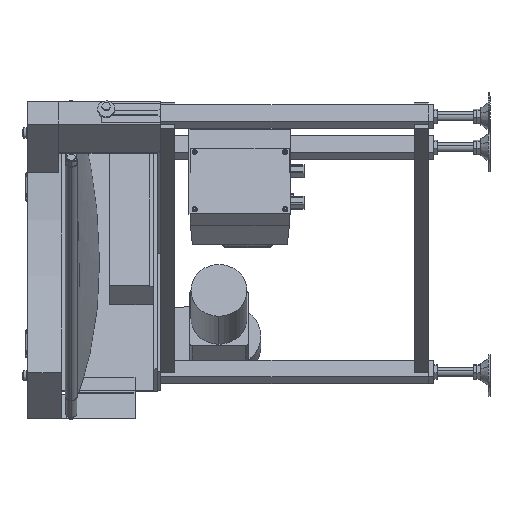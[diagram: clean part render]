
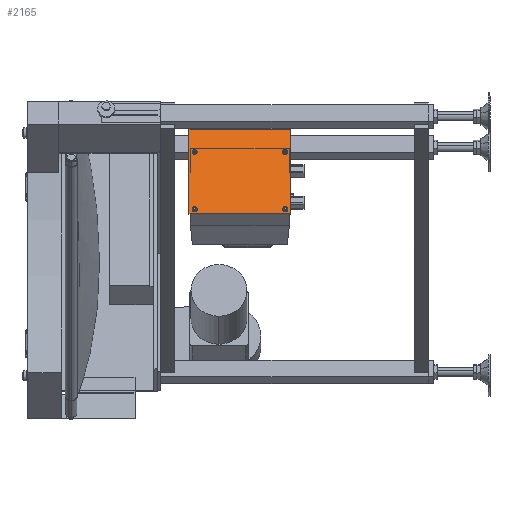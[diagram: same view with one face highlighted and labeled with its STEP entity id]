
A CAD part, left-side view. The second image highlights one B-rep face of the part: STEP entity #2165.
In plain terms, the highlighted planar face has unit normal (-0.924, 0, 0.383).
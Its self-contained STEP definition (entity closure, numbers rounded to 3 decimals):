
#209 = DIRECTION ( 'NONE',  ( 0.924, 0., -0.383 ) ) ;
#316 = AXIS2_PLACEMENT_3D ( 'NONE', #7514, #13319, #16289 ) ;
#565 = DIRECTION ( 'NONE',  ( 0., 1., 0. ) ) ;
#1039 = FACE_BOUND ( 'NONE', #23171, .T. ) ;
#1535 = AXIS2_PLACEMENT_3D ( 'NONE', #17725, #5831, #20741 ) ;
#1557 = ORIENTED_EDGE ( 'NONE', *, *, #20396, .F. ) ;
#1572 = CIRCLE ( 'NONE', #316, 4.5 ) ;
#2165 = ADVANCED_FACE ( 'NONE', ( #34431, #8570, #1039, #32107, #26400 ), #16156, .T. ) ;
#2605 = DIRECTION ( 'NONE',  ( 0.924, 0., -0.383 ) ) ;
#2780 = CARTESIAN_POINT ( 'NONE',  ( 615.953, -227.5, -86.283 ) ) ;
#3232 = EDGE_CURVE ( 'NONE', #38733, #4891, #12299, .T. ) ;
#4307 = AXIS2_PLACEMENT_3D ( 'NONE', #12824, #21541, #27885 ) ;
#4359 = EDGE_CURVE ( 'NONE', #24558, #37112, #31575, .T. ) ;
#4802 = EDGE_CURVE ( 'NONE', #4891, #38733, #14595, .T. ) ;
#4851 = VERTEX_POINT ( 'NONE', #2780 ) ;
#4854 = ORIENTED_EDGE ( 'NONE', *, *, #8979, .T. ) ;
#4891 = VERTEX_POINT ( 'NONE', #26696 ) ;
#5525 = ORIENTED_EDGE ( 'NONE', *, *, #11658, .T. ) ;
#5831 = DIRECTION ( 'NONE',  ( 0.924, 0., -0.383 ) ) ;
#6281 = DIRECTION ( 'NONE',  ( 0.924, 0., -0.383 ) ) ;
#6621 = AXIS2_PLACEMENT_3D ( 'NONE', #8787, #6281, #17909 ) ;
#6915 = VECTOR ( 'NONE', #38872, 1000. ) ;
#7361 = LINE ( 'NONE', #35878, #6915 ) ;
#7514 = CARTESIAN_POINT ( 'NONE',  ( 572.135, -387.5, -192.067 ) ) ;
#8062 = AXIS2_PLACEMENT_3D ( 'NONE', #13308, #16278, #19160 ) ;
#8167 = CARTESIAN_POINT ( 'NONE',  ( 569.265, -217.5, -198.996 ) ) ;
#8506 = CARTESIAN_POINT ( 'NONE',  ( 632.408, -397.5, -46.556 ) ) ;
#8570 = FACE_BOUND ( 'NONE', #13920, .T. ) ;
#8787 = CARTESIAN_POINT ( 'NONE',  ( 614.231, -387.5, -90.44 ) ) ;
#8979 = EDGE_CURVE ( 'NONE', #16865, #4851, #21290, .T. ) ;
#9019 = CARTESIAN_POINT ( 'NONE',  ( 614.231, -387.5, -90.44 ) ) ;
#10345 = VECTOR ( 'NONE', #24306, 1000. ) ;
#10714 = ORIENTED_EDGE ( 'NONE', *, *, #4802, .T. ) ;
#11371 = ORIENTED_EDGE ( 'NONE', *, *, #22338, .T. ) ;
#11658 = EDGE_CURVE ( 'NONE', #17021, #35065, #19707, .T. ) ;
#12013 = ORIENTED_EDGE ( 'NONE', *, *, #3232, .T. ) ;
#12237 = CARTESIAN_POINT ( 'NONE',  ( 614.231, -227.5, -90.44 ) ) ;
#12299 = CIRCLE ( 'NONE', #34758, 4.5 ) ;
#12628 = ORIENTED_EDGE ( 'NONE', *, *, #16559, .T. ) ;
#12824 = CARTESIAN_POINT ( 'NONE',  ( 572.135, -387.5, -192.067 ) ) ;
#13127 = ORIENTED_EDGE ( 'NONE', *, *, #16973, .T. ) ;
#13308 = CARTESIAN_POINT ( 'NONE',  ( 569.265, -397.5, -198.996 ) ) ;
#13319 = DIRECTION ( 'NONE',  ( 0.924, 0., -0.383 ) ) ;
#13859 = CARTESIAN_POINT ( 'NONE',  ( 632.408, -217.5, -46.556 ) ) ;
#13920 = EDGE_LOOP ( 'NONE', ( #24948, #25897 ) ) ;
#14180 = AXIS2_PLACEMENT_3D ( 'NONE', #9019, #30278, #32813 ) ;
#14422 = VERTEX_POINT ( 'NONE', #20940 ) ;
#14463 = DIRECTION ( 'NONE',  ( 0.383, 0., 0.924 ) ) ;
#14595 = CIRCLE ( 'NONE', #26733, 4.5 ) ;
#15042 = LINE ( 'NONE', #21438, #23450 ) ;
#15329 = EDGE_CURVE ( 'NONE', #37112, #24558, #26557, .T. ) ;
#16156 = PLANE ( 'NONE',  #8062 ) ;
#16278 = DIRECTION ( 'NONE',  ( -0.924, 0., 0.383 ) ) ;
#16289 = DIRECTION ( 'NONE',  ( -0.383, 0., -0.924 ) ) ;
#16448 = LINE ( 'NONE', #8167, #36206 ) ;
#16559 = EDGE_CURVE ( 'NONE', #16974, #14422, #1572, .T. ) ;
#16865 = VERTEX_POINT ( 'NONE', #17923 ) ;
#16973 = EDGE_CURVE ( 'NONE', #4851, #16865, #17485, .T. ) ;
#16974 = VERTEX_POINT ( 'NONE', #36355 ) ;
#17021 = VERTEX_POINT ( 'NONE', #30721 ) ;
#17246 = EDGE_LOOP ( 'NONE', ( #11371, #12628 ) ) ;
#17485 = CIRCLE ( 'NONE', #25030, 4.5 ) ;
#17504 = VERTEX_POINT ( 'NONE', #29423 ) ;
#17572 = ORIENTED_EDGE ( 'NONE', *, *, #21772, .T. ) ;
#17725 = CARTESIAN_POINT ( 'NONE',  ( 614.231, -227.5, -90.44 ) ) ;
#17909 = DIRECTION ( 'NONE',  ( -0.383, 0., -0.924 ) ) ;
#17923 = CARTESIAN_POINT ( 'NONE',  ( 612.508, -227.5, -94.598 ) ) ;
#19160 = DIRECTION ( 'NONE',  ( 0.383, 0., 0.924 ) ) ;
#19707 = LINE ( 'NONE', #24571, #10345 ) ;
#20050 = EDGE_LOOP ( 'NONE', ( #1557, #23926, #5525, #17572 ) ) ;
#20396 = EDGE_CURVE ( 'NONE', #17504, #33699, #16448, .T. ) ;
#20489 = DIRECTION ( 'NONE',  ( -0.383, 0., -0.924 ) ) ;
#20741 = DIRECTION ( 'NONE',  ( -0.383, 0., -0.924 ) ) ;
#20904 = CARTESIAN_POINT ( 'NONE',  ( 612.508, -387.5, -94.598 ) ) ;
#20940 = CARTESIAN_POINT ( 'NONE',  ( 570.413, -387.5, -196.224 ) ) ;
#21290 = CIRCLE ( 'NONE', #1535, 4.5 ) ;
#21438 = CARTESIAN_POINT ( 'NONE',  ( 632.408, -397.5, -46.556 ) ) ;
#21541 = DIRECTION ( 'NONE',  ( 0.924, 0., -0.383 ) ) ;
#21772 = EDGE_CURVE ( 'NONE', #35065, #33699, #15042, .T. ) ;
#22338 = EDGE_CURVE ( 'NONE', #14422, #16974, #36592, .T. ) ;
#23171 = EDGE_LOOP ( 'NONE', ( #10714, #12013 ) ) ;
#23450 = VECTOR ( 'NONE', #565, 1000. ) ;
#23526 = EDGE_CURVE ( 'NONE', #17021, #17504, #7361, .T. ) ;
#23895 = CARTESIAN_POINT ( 'NONE',  ( 572.135, -227.5, -192.067 ) ) ;
#23926 = ORIENTED_EDGE ( 'NONE', *, *, #23526, .F. ) ;
#24306 = DIRECTION ( 'NONE',  ( 0.383, 0., 0.924 ) ) ;
#24558 = VERTEX_POINT ( 'NONE', #20904 ) ;
#24571 = CARTESIAN_POINT ( 'NONE',  ( 569.265, -397.5, -198.996 ) ) ;
#24948 = ORIENTED_EDGE ( 'NONE', *, *, #4359, .T. ) ;
#25030 = AXIS2_PLACEMENT_3D ( 'NONE', #12237, #209, #33365 ) ;
#25897 = ORIENTED_EDGE ( 'NONE', *, *, #15329, .T. ) ;
#26400 = FACE_OUTER_BOUND ( 'NONE', #20050, .T. ) ;
#26557 = CIRCLE ( 'NONE', #14180, 4.5 ) ;
#26696 = CARTESIAN_POINT ( 'NONE',  ( 570.413, -227.5, -196.224 ) ) ;
#26733 = AXIS2_PLACEMENT_3D ( 'NONE', #32277, #38778, #20489 ) ;
#27885 = DIRECTION ( 'NONE',  ( -0.383, 0., -0.924 ) ) ;
#29423 = CARTESIAN_POINT ( 'NONE',  ( 569.265, -217.5, -198.996 ) ) ;
#29573 = DIRECTION ( 'NONE',  ( -0.383, 0., -0.924 ) ) ;
#30278 = DIRECTION ( 'NONE',  ( 0.924, 0., -0.383 ) ) ;
#30721 = CARTESIAN_POINT ( 'NONE',  ( 569.265, -397.5, -198.996 ) ) ;
#31575 = CIRCLE ( 'NONE', #6621, 4.5 ) ;
#32107 = FACE_BOUND ( 'NONE', #32594, .T. ) ;
#32277 = CARTESIAN_POINT ( 'NONE',  ( 572.135, -227.5, -192.067 ) ) ;
#32594 = EDGE_LOOP ( 'NONE', ( #4854, #13127 ) ) ;
#32813 = DIRECTION ( 'NONE',  ( -0.383, 0., -0.924 ) ) ;
#33365 = DIRECTION ( 'NONE',  ( -0.383, 0., -0.924 ) ) ;
#33504 = CARTESIAN_POINT ( 'NONE',  ( 615.953, -387.5, -86.283 ) ) ;
#33699 = VERTEX_POINT ( 'NONE', #13859 ) ;
#34431 = FACE_BOUND ( 'NONE', #17246, .T. ) ;
#34758 = AXIS2_PLACEMENT_3D ( 'NONE', #23895, #2605, #29573 ) ;
#35065 = VERTEX_POINT ( 'NONE', #8506 ) ;
#35598 = CARTESIAN_POINT ( 'NONE',  ( 573.857, -227.5, -187.91 ) ) ;
#35878 = CARTESIAN_POINT ( 'NONE',  ( 569.265, -397.5, -198.996 ) ) ;
#36206 = VECTOR ( 'NONE', #14463, 1000. ) ;
#36355 = CARTESIAN_POINT ( 'NONE',  ( 573.857, -387.5, -187.91 ) ) ;
#36592 = CIRCLE ( 'NONE', #4307, 4.5 ) ;
#37112 = VERTEX_POINT ( 'NONE', #33504 ) ;
#38733 = VERTEX_POINT ( 'NONE', #35598 ) ;
#38778 = DIRECTION ( 'NONE',  ( 0.924, 0., -0.383 ) ) ;
#38872 = DIRECTION ( 'NONE',  ( 0., 1., 0. ) ) ;
